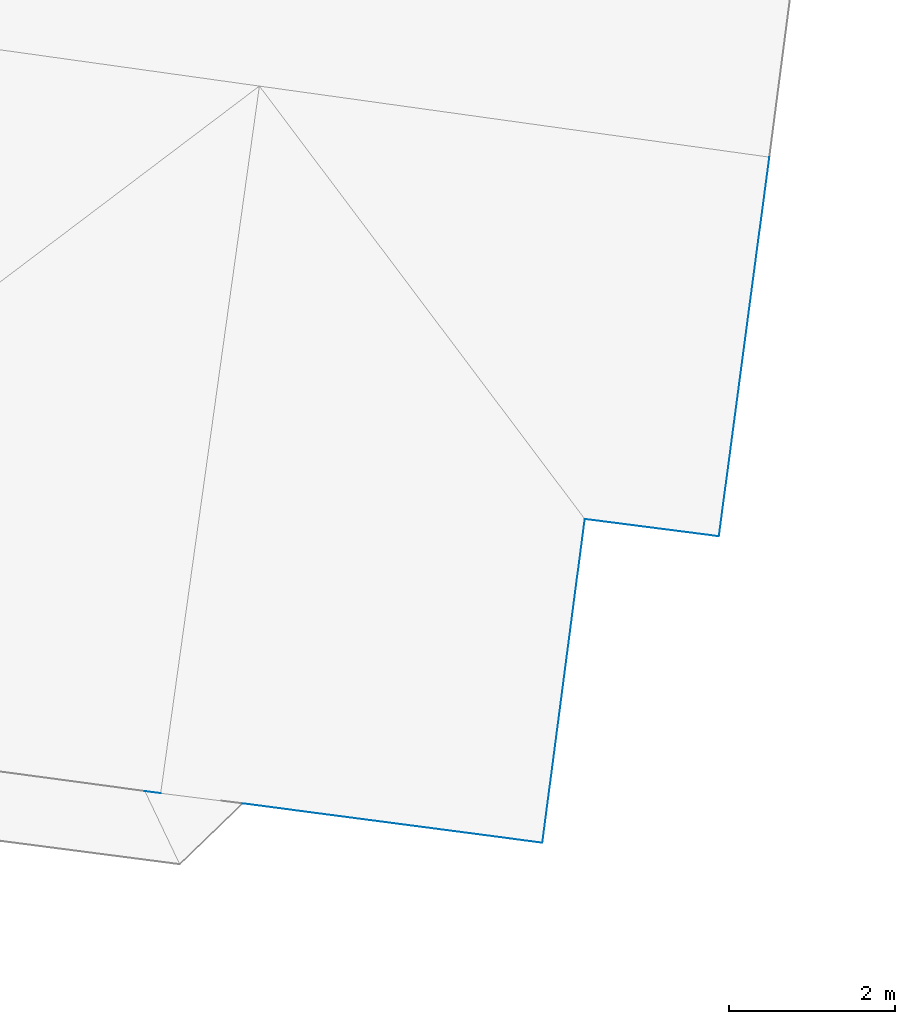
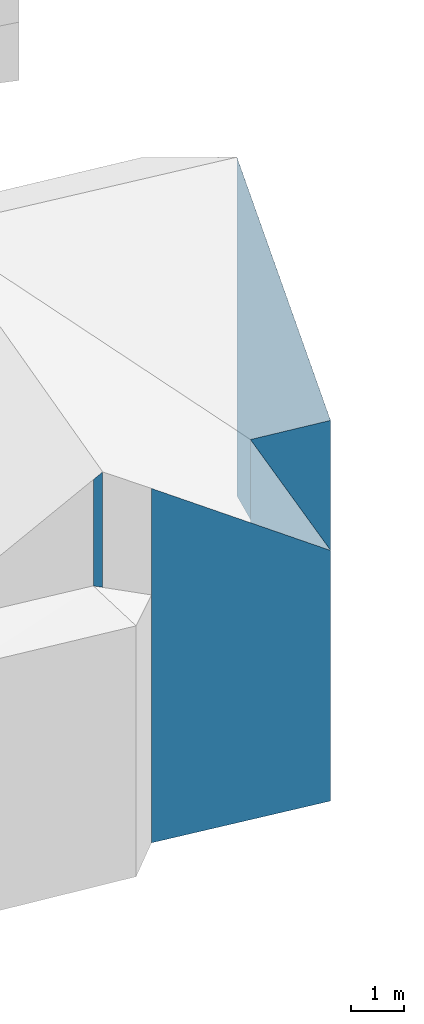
# Not in any storey, part 30 of 57: 5 walls.
"""IFC4 building model written with IfcOpenShell, lengths in metres."""

from ifc_helpers import new_model, entity, si_unit, converted_unit, origin, place, context, subcontext, project, spatial, face_set, surface_model, element, save


model = new_model("IFC4")

# Units and contexts
model_context = context("Model", 3, precision=1e-05, world=origin())
body_context = subcontext(model_context, "Body", "Model", "MODEL_VIEW")
ifc_project = project(units=[converted_unit("PLANEANGLEUNIT", "DEGREE", entity("IfcRatioMeasure", 0.0174532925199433), si_unit("PLANEANGLEUNIT", "RADIAN"), dimensions=[0, 0, 0, 0, 0, 0, 0]), si_unit("AREAUNIT", "SQUARE_METRE"), si_unit("LENGTHUNIT", "METRE")], contexts=[model_context])

# Site, building
site_placement = place(None, origin())
site = spatial("IfcSite", under=ifc_project, at=site_placement, Name="_site")
building_placement = place(site_placement, origin())
building = spatial("IfcBuilding", under=site, at=building_placement, Name="_building")

# Walls
wall_1_placement = place(building_placement, origin())
element("IfcWall", 1, at=wall_1_placement, inside=building, Name="Wall", PredefinedType="NOTDEFINED", context=body_context, shape_type="SurfaceModel", body=[
    surface_model("IfcFaceBasedSurfaceModel", [(242.415, 85.864, 112.39), (238.803, 86.338, 114.79), (238.803, 86.338, 106.667), (242.415, 85.864, 106.65)], [face_set([[[0, 1, 2, 3]]])]),
])
wall_2_placement = place(building_placement, origin())
element("IfcWall", 2, at=wall_2_placement, inside=building, Name="Wall", PredefinedType="NOTDEFINED", context=body_context, shape_type="SurfaceModel", body=[
    surface_model("IfcFaceBasedSurfaceModel", [(242.926, 89.764, 112.39), (242.415, 85.864, 112.39), (242.415, 85.864, 106.65), (242.926, 89.764, 106.956)], [face_set([[[0, 1, 2, 3]]])]),
])
wall_3_placement = place(building_placement, origin())
element("IfcWall", 3, at=wall_3_placement, inside=building, Name="Wall", PredefinedType="NOTDEFINED", context=body_context, shape_type="SurfaceModel", body=[
    surface_model("IfcFaceBasedSurfaceModel", [(244.542, 89.556, 112.39), (242.926, 89.764, 112.39), (242.926, 89.764, 106.956), (244.542, 89.556, 106.907)], [face_set([[[0, 1, 2, 3]]])]),
])
wall_4_placement = place(building_placement, origin())
element("IfcWall", 4, at=wall_4_placement, inside=building, Name="Wall", PredefinedType="NOTDEFINED", context=body_context, shape_type="SurfaceModel", body=[
    surface_model("IfcFaceBasedSurfaceModel", [(245.15, 94.125, 115.44), (244.542, 89.556, 112.39), (244.542, 89.556, 106.907), (245.15, 94.125, 107.674)], [face_set([[[0, 1, 2, 3]]])]),
])
wall_5_placement = place(building_placement, origin())
element("IfcWall", 5, at=wall_5_placement, inside=building, Name="Wall", PredefinedType="NOTDEFINED", context=body_context, shape_type="SurfaceModel", body=[
    surface_model("IfcFaceBasedSurfaceModel", [(237.816, 86.461, 115.44), (237.626, 86.486, 115.314), (237.626, 86.486, 112.88), (237.816, 86.461, 112.794)], [face_set([[[0, 1, 2, 3]]])]),
])

save(model, "model.ifc")
